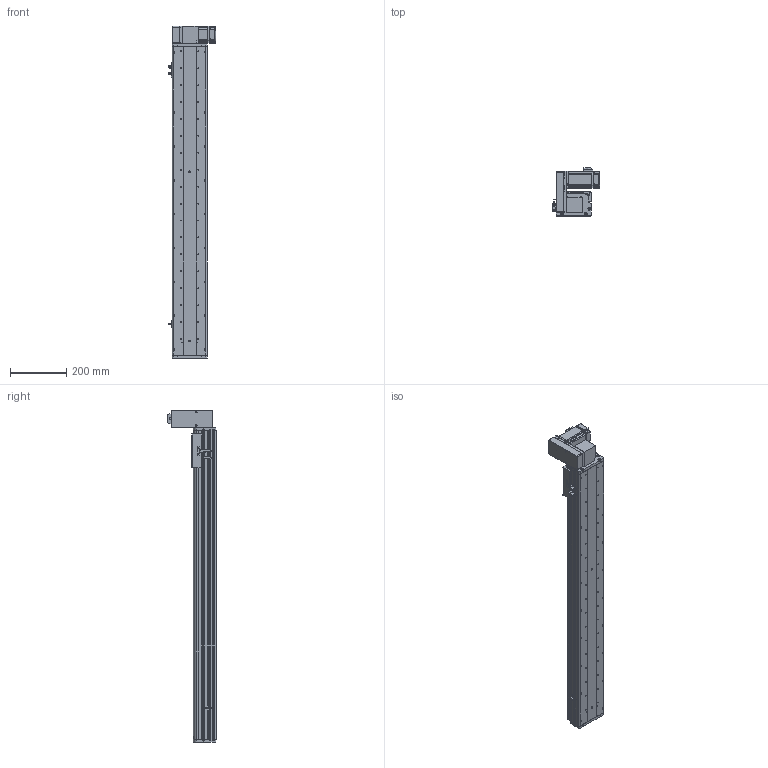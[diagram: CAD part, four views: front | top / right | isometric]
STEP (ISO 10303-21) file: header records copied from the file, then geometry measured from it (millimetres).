
FILE_DESCRIPTION (( 'STEP AP214' ), '1' );
FILE_NAME ('KSD125B-S900-MRU-CM.STEP', '2017-10-21T07:37:12', ( '微软用户' ), ( '微软中国' ), 'SwSTEP 2.0', 'SolidWorks 2014', '' );
FILE_SCHEMA (( 'AUTOMOTIVE_DESIGN' ));
Length unit declared in the file: millimetre
Products named in the file (17): KSD125模组900行程同步带-防尘盖; 125模组900行程同步带-底板; MHMD042G1CA_2_03; KSD125模组同步带-防撞垫2; 覜茼え68遵圉猾敕; U倰嫖萇假蚾璃; U倰嫖萇EEㄜSX672; KSD125模组同步带-防撞垫1; 100宽马达安装板同步带右; 前端板-125宽模组同步带; 125模组同步带-尾端板1; KSD125模组同步带-滑动座1; KSD125B-S900-MRU-CM; 悵誘欶奻狟殏; HTPA30S3M150_A_H6_a佪裝蚚; HTPA30S3M150_A_H6_a萇儂蚚; 100宽马达安装板连板上下折丝杆同步带
Assembly tree (20 placements, depth 2):
  KSD125B-S900-MRU-CM
    KSD125模组同步带-滑动座1
    125模组同步带-尾端板1
    前端板-125宽模组同步带
    100宽马达安装板同步带右
    KSD125模组同步带-防撞垫1
    U倰嫖萇EEㄜSX672  x3
    U倰嫖萇假蚾璃  x3
    覜茼え68遵圉猾敕
    KSD125模组同步带-防撞垫2
    MHMD042G1CA_2_03
    125模组900行程同步带-底板
    KSD125模组900行程同步带-防尘盖
    100宽马达安装板连板上下折丝杆同步带
    HTPA30S3M150_A_H6_a萇儂蚚
    HTPA30S3M150_A_H6_a佪裝蚚
    悵誘欶奻狟殏
Bounding box: 168.7 x 170.5 x 1177 mm (x, y, z)
Volume: 3660190 mm3; surface area: 1235779.4 mm2
Topology: 19 solids, 22 shells, 2297 faces, 6655 edges, 4398 vertices
Faces by surface type: cylinder 1444, plane 726, cone 105, bspline 22
Entity records: 81785 total; most frequent: CARTESIAN_POINT 16125, DIRECTION 12712, ORIENTED_EDGE 11830, EDGE_CURVE 5993, AXIS2_PLACEMENT_3D 4917, VERTEX_POINT 3990, VECTOR 2878, LINE 2878
